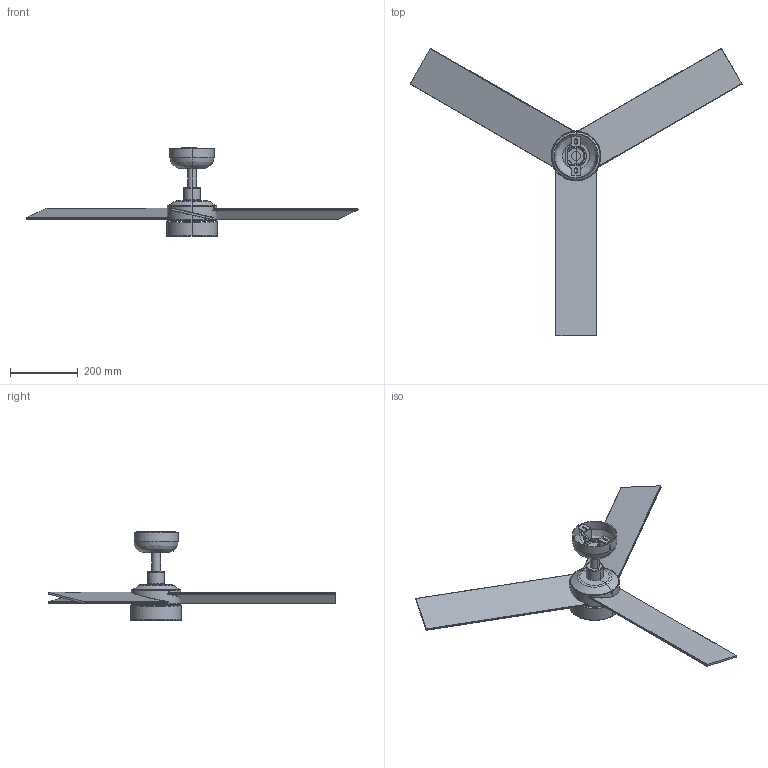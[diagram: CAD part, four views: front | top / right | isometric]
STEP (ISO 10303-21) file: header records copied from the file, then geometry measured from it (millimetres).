
FILE_DESCRIPTION(/* description */ (''),/* implementation_level */ '2;1');
FILE_NAME(/* name */ '34295-1TW_3d',/* time_stamp */ '2026-06-02T11:45:22+02:00',/* author */ (''),/* organization */ (''),/* preprocessor_version */ 'ST-DEVELOPER v19.2',/* originating_system */ 'Rhino 8.30',/* authorisation */ '');
FILE_SCHEMA (('CONFIG_CONTROL_DESIGN'));
Length unit declared in the file: millimetre
Products named in the file (1): Document
Bounding box: 979.32 x 848.18 x 261.06 mm (x, y, z)
Volume: 1811094.1 mm3; surface area: 660945 mm2
Topology: 6 solids, 7 shells, 256 faces, 677 edges, 421 vertices
Faces by surface type: plane 131, cylinder 95, bspline 30
Entity records: 12718 total; most frequent: CARTESIAN_POINT 5944, ORIENTED_EDGE 1342, EDGE_CURVE 677, DIRECTION 636, B_SPLINE_CURVE_WITH_KNOTS 438, AXIS2_PLACEMENT_3D 431, VERTEX_POINT 421, EDGE_LOOP 289
